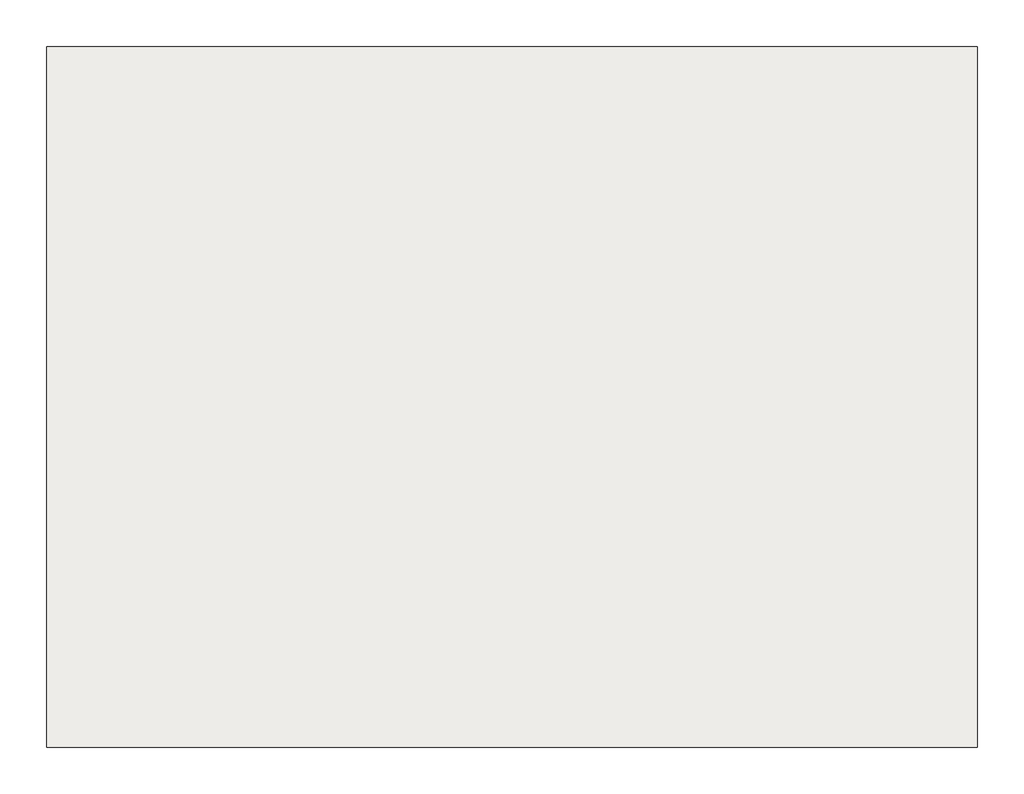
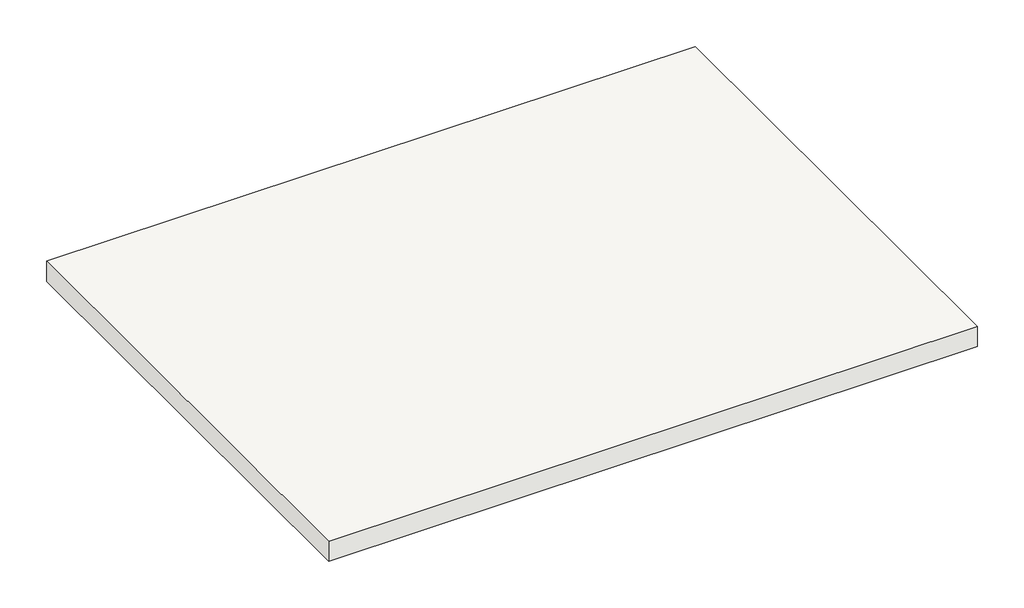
# One storey: 1 slab.
"""IFC4 building model written with IfcOpenShell, lengths in millimetres."""

from ifc_helpers import new_model, si_unit, frame, origin, place, context, project, spatial, polyline, outline, extrude, element, save

model = new_model("IFC4")

# Units and contexts
model_context = context("Model", 3, world=origin())
ifc_project = project(units=[si_unit("LENGTHUNIT", "METRE", prefix="MILLI")], contexts=[model_context])

# Site, building, storey
site = spatial("IfcSite", under=ifc_project)
building = spatial("IfcBuilding", under=site)
storey = spatial("IfcBuildingStorey", under=building, Name="STŘECHA NAD 5. NP", Elevation=21450.0)

# Slab
placement = place(None, origin())
element("IfcSlab", 1, ObjectType="Železobetnová stropní deska tl. 250 mm", at=placement, inside=storey, context=model_context, shape_type="SweptSolid", body=[
    extrude(outline(polyline([(8822.0691438, -46.7473289), (8822.0691438, -5796.7473289), (1182.0691438, -5796.7473289), (1182.0691438, -46.7473289), (8822.0691438, -46.7473289)])), frame((0.0, 0.0, 21200.0), z_axis=(0.0, 0.0, 1.0), x_axis=(1.0, 0.0, 0.0)), (0.0, 0.0, 1.0), 250.0),
])

save(model, "model.ifc")
